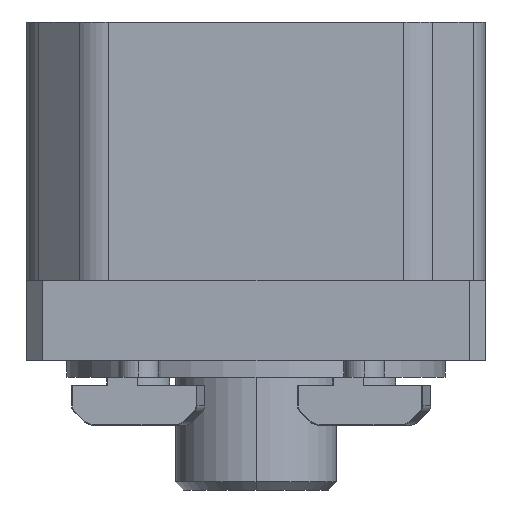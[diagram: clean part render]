
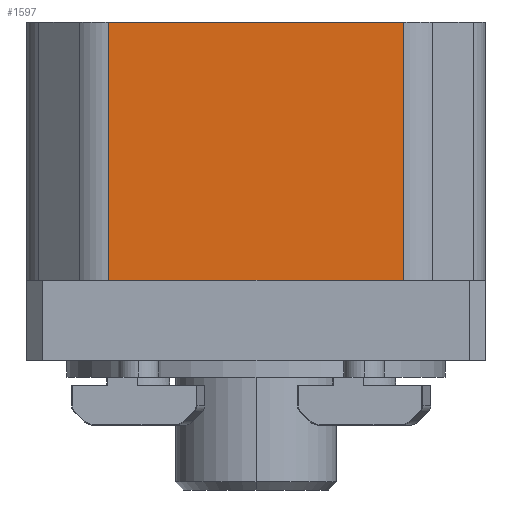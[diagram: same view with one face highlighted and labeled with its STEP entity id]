
A CAD part, left-side view. The second image highlights one B-rep face of the part: STEP entity #1597.
In plain terms, the highlighted planar face has unit normal (-1, 0, 0).
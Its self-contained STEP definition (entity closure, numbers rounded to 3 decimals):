
#381=DIRECTION('',(0.,0.,1.));
#382=VECTOR('',#381,32.);
#383=CARTESIAN_POINT('',(-30.,-18.329,10.));
#384=LINE('',#383,#382);
#385=DIRECTION('',(0.,1.,0.));
#386=VECTOR('',#385,36.658);
#387=CARTESIAN_POINT('',(-30.,-18.329,10.));
#388=LINE('',#387,#386);
#389=DIRECTION('',(0.,0.,-1.));
#390=VECTOR('',#389,32.);
#391=CARTESIAN_POINT('',(-30.,18.329,42.));
#392=LINE('',#391,#390);
#393=DIRECTION('',(0.,-1.,0.));
#394=VECTOR('',#393,36.658);
#395=CARTESIAN_POINT('',(-30.,18.329,42.));
#396=LINE('',#395,#394);
#1001=CARTESIAN_POINT('',(-30.,-18.329,42.));
#1003=VERTEX_POINT('',#1001);
#1007=CARTESIAN_POINT('',(-30.,-18.329,10.));
#1008=VERTEX_POINT('',#1007);
#1013=CARTESIAN_POINT('',(-30.,18.329,42.));
#1014=VERTEX_POINT('',#1013);
#1015=CARTESIAN_POINT('',(-30.,18.329,10.));
#1016=VERTEX_POINT('',#1015);
#1585=CARTESIAN_POINT('',(-30.,28.4,10.));
#1586=DIRECTION('',(-1.,0.,0.));
#1587=DIRECTION('',(0.,-1.,0.));
#1588=AXIS2_PLACEMENT_3D('',#1585,#1586,#1587);
#1589=PLANE('',#1588);
#1591=ORIENTED_EDGE('',*,*,#1590,.F.);
#1592=ORIENTED_EDGE('',*,*,#1350,.T.);
#1593=ORIENTED_EDGE('',*,*,#1579,.F.);
#1594=ORIENTED_EDGE('',*,*,#1423,.T.);
#1595=EDGE_LOOP('',(#1591,#1592,#1593,#1594));
#1596=FACE_OUTER_BOUND('',#1595,.F.);
#1350=EDGE_CURVE('',#1008,#1016,#388,.T.);
#1423=EDGE_CURVE('',#1014,#1003,#396,.T.);
#1579=EDGE_CURVE('',#1014,#1016,#392,.T.);
#1590=EDGE_CURVE('',#1008,#1003,#384,.T.);
#1597=ADVANCED_FACE('',(#1596),#1589,.T.);
